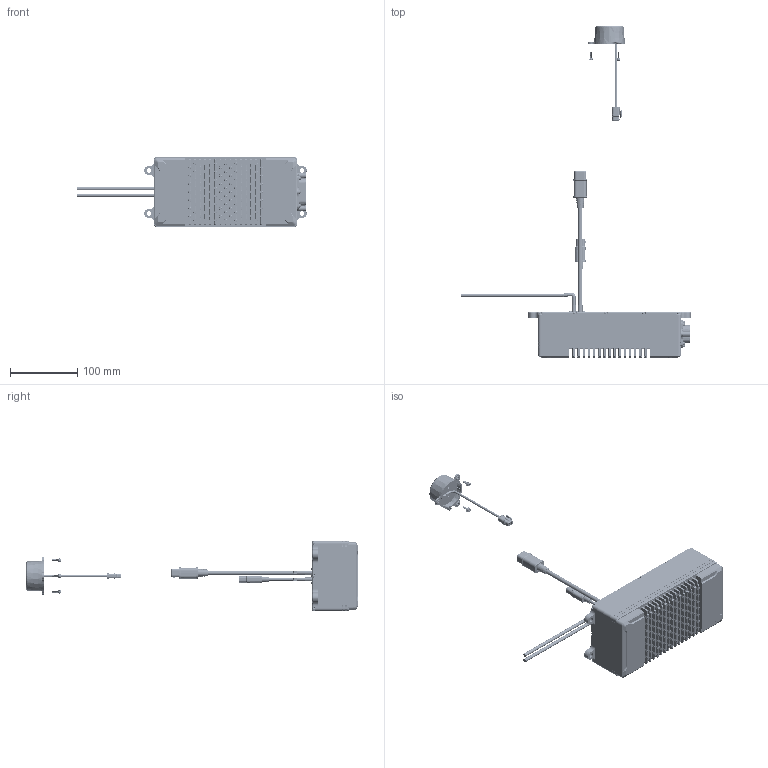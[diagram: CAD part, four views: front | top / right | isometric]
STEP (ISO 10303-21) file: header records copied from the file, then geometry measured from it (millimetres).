
FILE_DESCRIPTION((''),'2;1');
FILE_NAME('30502017701_SW0003','2026-06-22T11:07:36',('221126'),(''),'CREO PARAMETRIC BY PTC INC, 2021284','CREO PARAMETRIC BY PTC INC, 2021284','');
FILE_SCHEMA(('CONFIG_CONTROL_DESIGN'));
Products named in the file (1): 30502017701_SW0003
Bounding box: 340.5 x 493 x 104 mm (x, y, z)
Volume: 837489 mm3; surface area: 333357.4 mm2
Topology: 20 solids, 20 shells, 17583 faces, 44993 edges, 28389 vertices
Faces by surface type: plane 10322, cylinder 3302, extrusion 1787, cone 1329, sphere 318, bspline 303, torus 210, revolution 12
Entity records: 1090768 total; most frequent: CARTESIAN_POINT 673026, ORIENTED_EDGE 89340, DIRECTION 79635, EDGE_CURVE 44670, VECTOR 31841, LINE 30054, VERTEX_POINT 28389, AXIS2_PLACEMENT_3D 23891
